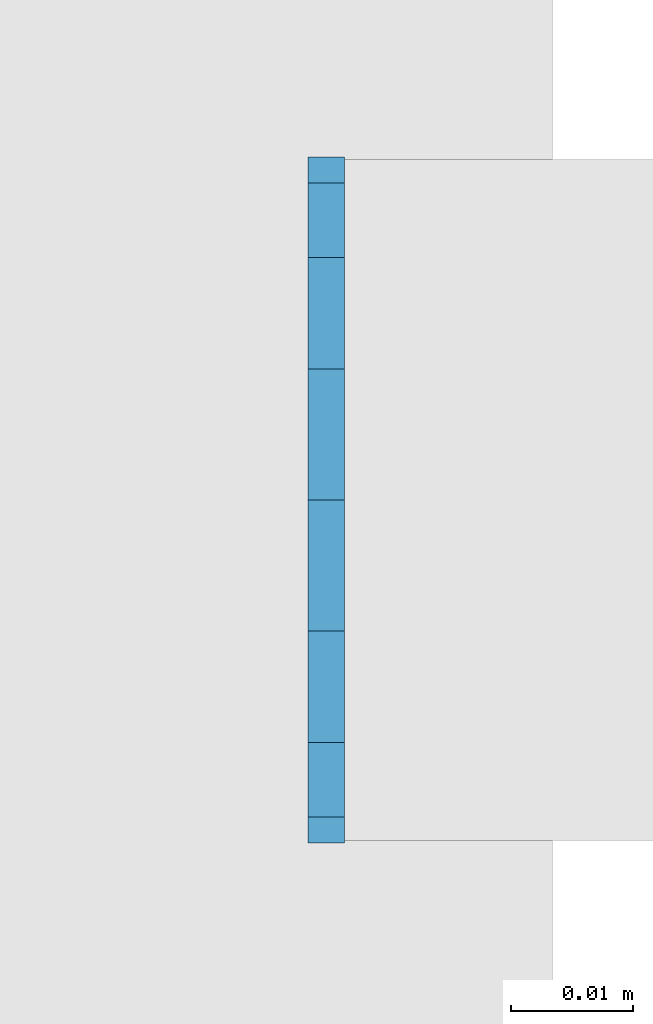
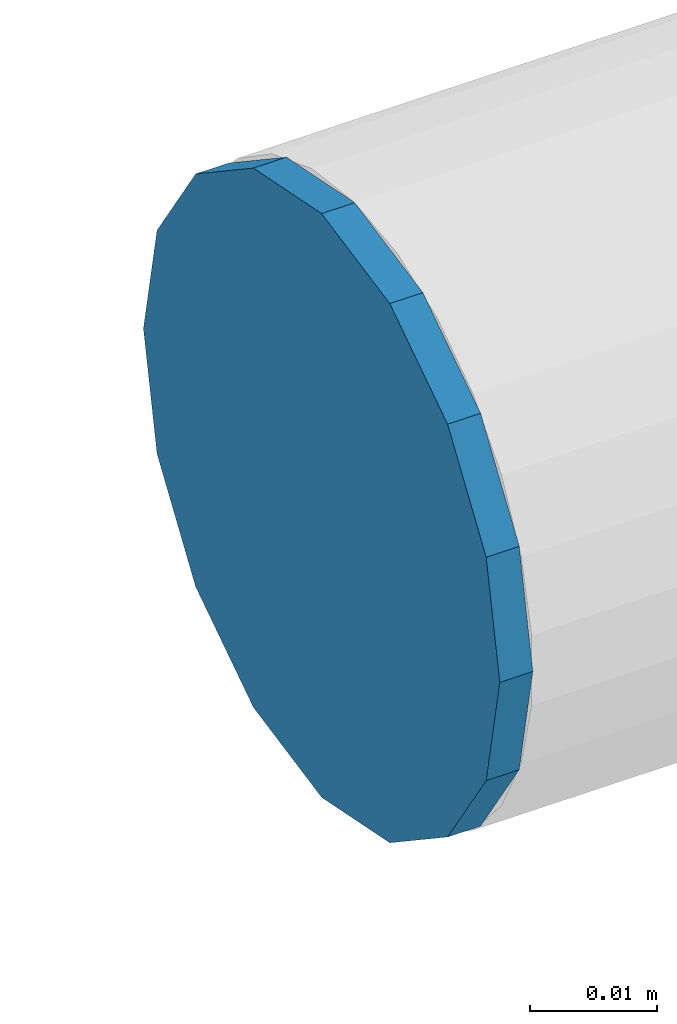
# One storey, part 100 of 186: 1 beam.
"""IFC4X3_ADD2 building model written with IfcOpenShell, lengths in millimetres."""

from ifc_helpers import new_model, si_unit, direction, frame, origin_with_axes, place, context, subcontext, project, spatial, indexed_curve, outline, extrude, material, element, save


model = new_model("IFC4X3_ADD2")

# Units and contexts
model_context = context("Model", 3, precision=1e-05, world=origin_with_axes(), true_north=direction((0.0, 1.0)))
body_context = subcontext(model_context, "Body", "Model", "MODEL_VIEW")
ifc_project = project(units=[si_unit("LENGTHUNIT", "METRE", prefix="MILLI"), si_unit("AREAUNIT", "SQUARE_METRE"), si_unit("VOLUMEUNIT", "CUBIC_METRE"), si_unit("PLANEANGLEUNIT", "RADIAN"), si_unit("TIMEUNIT", "SECOND"), si_unit("MASSUNIT", "GRAM")], contexts=[model_context])

# Site, building, storey
site_placement = place(None, origin_with_axes())
site = spatial("IfcSite", under=ifc_project, at=site_placement, Name="Site", CompositionType="ELEMENT")
building_placement = place(site_placement, origin_with_axes())
building = spatial("IfcBuilding", under=site, at=building_placement, Name="IFC Building Story")
storey_placement = place(building_placement, frame((0.0, 0.0, 4370.0), z_axis=(0.0, 0.0, 1.0), x_axis=(1.0, 0.0, 0.0)))
storey = spatial("IfcBuildingStorey", under=building, at=storey_placement, Name="ETAGE 10 (1)", Elevation=4370.0)

# Beam
ifc_material = material(Name="STEEL/Accessory 22919")
beam_placement = place(storey_placement, frame((16364.18882696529, 17649.9997253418, 1155.603999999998), z_axis=(-1.0, 0.0, 0.0), x_axis=(0.0, 0.1950903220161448, 0.9807852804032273)))
element("IfcBeam", 1, at=beam_placement, inside=storey, material=ifc_material, Name="TA4", ObjectType="D56", context=body_context, shape_type="SweptSolid", body=[
    extrude(outline(indexed_curve([(23.28114914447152, 15.55596652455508), (27.46198785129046, 5.462529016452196), (27.46198785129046, -5.462529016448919), (23.28114914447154, -15.55596652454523), (15.55596652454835, -23.28114914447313), (5.462529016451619, -27.46198785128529), (-5.462529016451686, -27.46198785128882), (-15.55596652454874, -23.28114914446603), (-23.2811491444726, -15.55596652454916), (-27.46198785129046, -5.462529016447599), (-27.46198785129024, 5.462529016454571), (-23.28114914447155, 15.55596652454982), (-15.55596652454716, 23.28114914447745), (-5.462529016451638, 27.46198785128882), (5.462529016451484, 27.46198785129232), (15.55596652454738, 23.28114914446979), (23.28114914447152, 15.55596652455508)])), origin_with_axes(), (0.0, 0.0, 1.0), 2.999999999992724),
])

save(model, "model.ifc")
